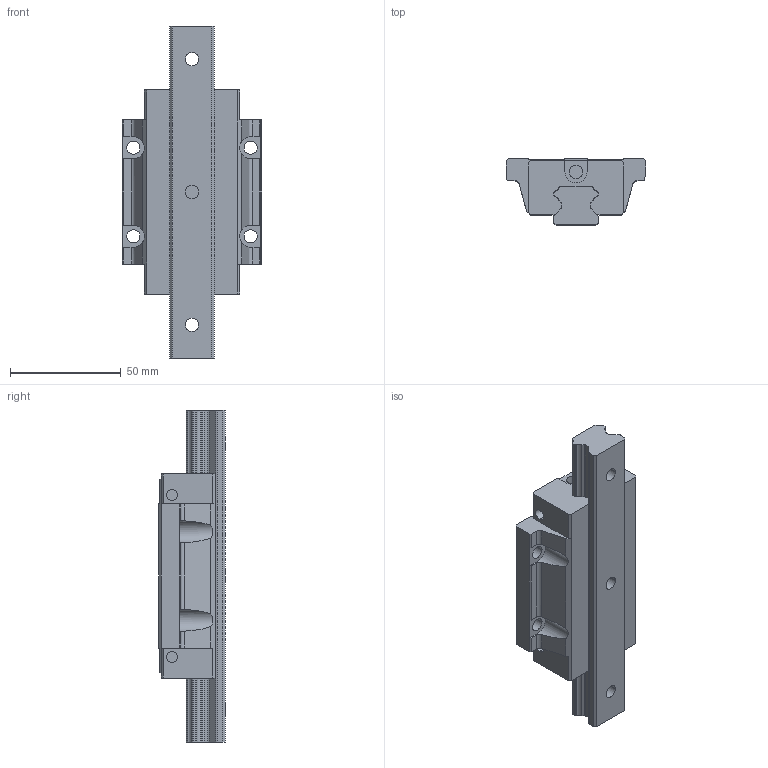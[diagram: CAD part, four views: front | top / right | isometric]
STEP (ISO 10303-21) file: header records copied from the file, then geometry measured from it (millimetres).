
FILE_DESCRIPTION((''),'2;1');
FILE_NAME('HGW20HC_ASM','2008-07-11T',('immo'),(''),'PRO/ENGINEER BY PARAMETRIC TECHNOLOGY CORPORATION, 2004360','PRO/ENGINEER BY PARAMETRIC TECHNOLOGY CORPORATION, 2004360','');
FILE_SCHEMA(('CONFIG_CONTROL_DESIGN'));
Length unit declared in the file: millimetre
Products named in the file (4): HGW20H_2; HGR20_3; HGW20H_ASM_1_ASM; HGW20HC_ASM
Assembly tree (3 placements, depth 3):
  HGW20HC_ASM
    HGW20H_ASM_1_ASM
      HGW20H_2
      HGR20_3
Bounding box: 63 x 30 x 150 mm (x, y, z)
Volume: 135665.2 mm3; surface area: 34328 mm2
Topology: 2 solids, 2 shells, 237 faces, 726 edges, 506 vertices
Faces by surface type: plane 137, cylinder 100
Entity records: 8444 total; most frequent: CARTESIAN_POINT 1576, ORIENTED_EDGE 1452, DIRECTION 1404, EDGE_CURVE 726, VERTEX_POINT 506, VECTOR 496, LINE 496, AXIS2_PLACEMENT_3D 454
